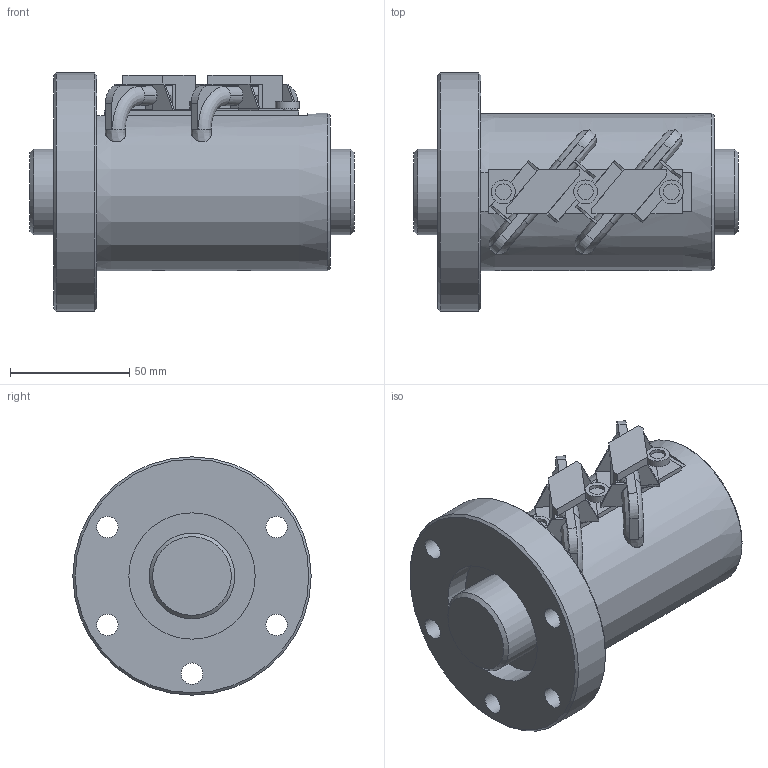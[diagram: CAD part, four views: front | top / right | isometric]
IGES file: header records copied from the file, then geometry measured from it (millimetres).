
Start section: Data from Parasolid IGES Translator 26.0.171, Copyright(c) 2006 Siemens PLM Software. All Rights Reserved.
Global section: file name: HBN3612-5RRG2+136LC0(0G200)_rev.igs; native system: By Siemens PLM Incorporated; preprocessor: XPlus GENERIC/IGES 26.0.171; author: Noname; organization: Noname; date: 20240704.081721; units: millimetre
Bounding box: 136 x 100 x 100 mm (x, y, z)
Surface area: 83392 mm2 (no closed solid volume)
Topology: 0 solids, 0 shells, 188 faces, 1080 edges, 1040 vertices
Faces by surface type: extrusion 139, revolution 49
